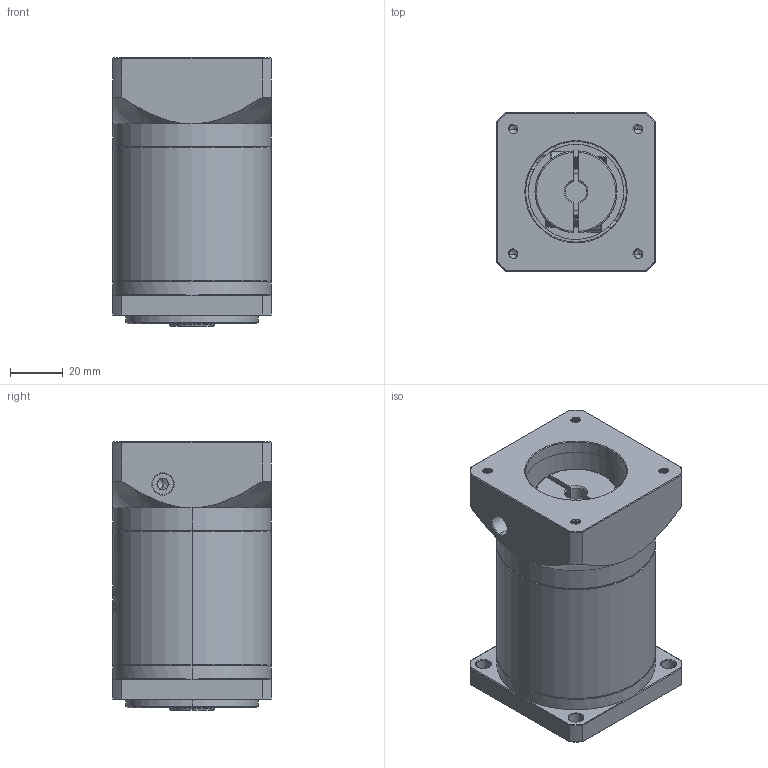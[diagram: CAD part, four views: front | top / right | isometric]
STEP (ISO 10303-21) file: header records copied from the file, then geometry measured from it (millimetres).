
FILE_DESCRIPTION (( 'STEP AP214' ), '1' );
FILE_NAME ('ZF60-K10-L2-8-38.1-47.14X47.14-M4.STEP', '2022-04-17T11:31:22', ( '' ), ( 'Microsoft' ), 'SwSTEP 2.0', 'SolidWorks 2016', '' );
FILE_SCHEMA (( 'AUTOMOTIVE_DESIGN' ));
Length unit declared in the file: millimetre
Products named in the file (1): ZF60-K10-L2-8-38.1-47.14X47.14-M4
Bounding box: 60 x 60 x 101.5 mm (x, y, z)
Volume: 268920.6 mm3; surface area: 45987 mm2
Topology: 6 solids, 6 shells, 1552 faces, 4200 edges, 2723 vertices
Faces by surface type: plane 737, bspline 292, cylinder 284, cone 221, torus 18
Entity records: 82561 total; most frequent: CARTESIAN_POINT 29825, ORIENTED_EDGE 8376, DIRECTION 6188, EDGE_CURVE 4188, VERTEX_POINT 2723, VECTOR 2152, LINE 2152, AXIS2_PLACEMENT_3D 2018
